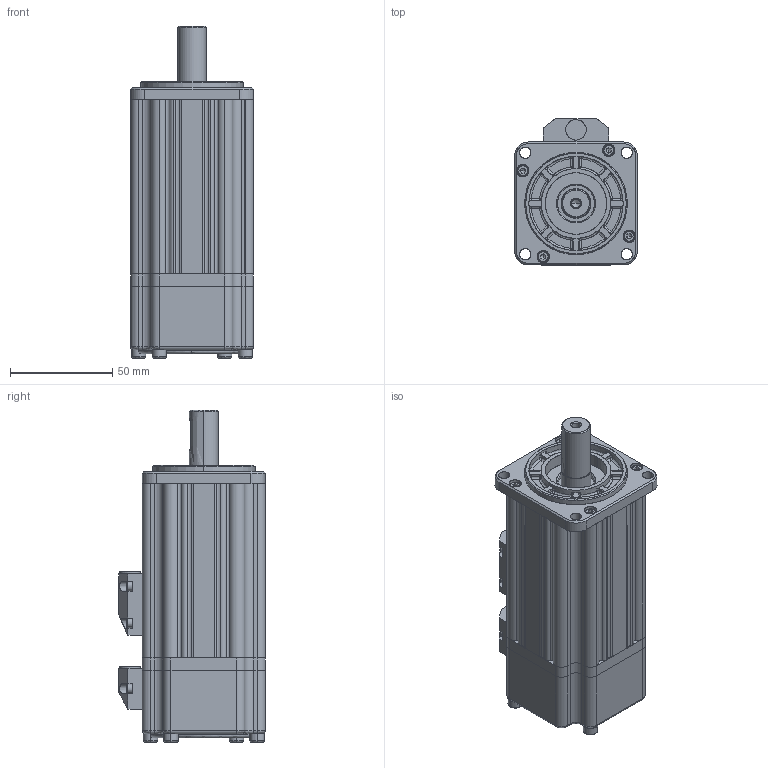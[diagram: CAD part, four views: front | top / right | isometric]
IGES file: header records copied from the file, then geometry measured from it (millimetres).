
Start section: SolidWorks IGES file using analytic representation for surfaces
Global section: file name: D:\estun\qianronghua\2011.2.12（张）\电机外观文件（EMJ02A归档）-2011.2.14\EMJ-04A(ADA.APB.ARA-160).IGS; native system: SolidWorks 2011; preprocessor: SolidWorks 2011; author: qianronghua; date: 110214.123459; units: millimetre
Bounding box: 60 x 71.5 x 162 mm (x, y, z)
Surface area: 69222.4 mm2 (no closed solid volume)
Topology: 0 solids, 0 shells, 862 faces, 9654 edges, 9575 vertices
Faces by surface type: bspline 450, revolution 412
